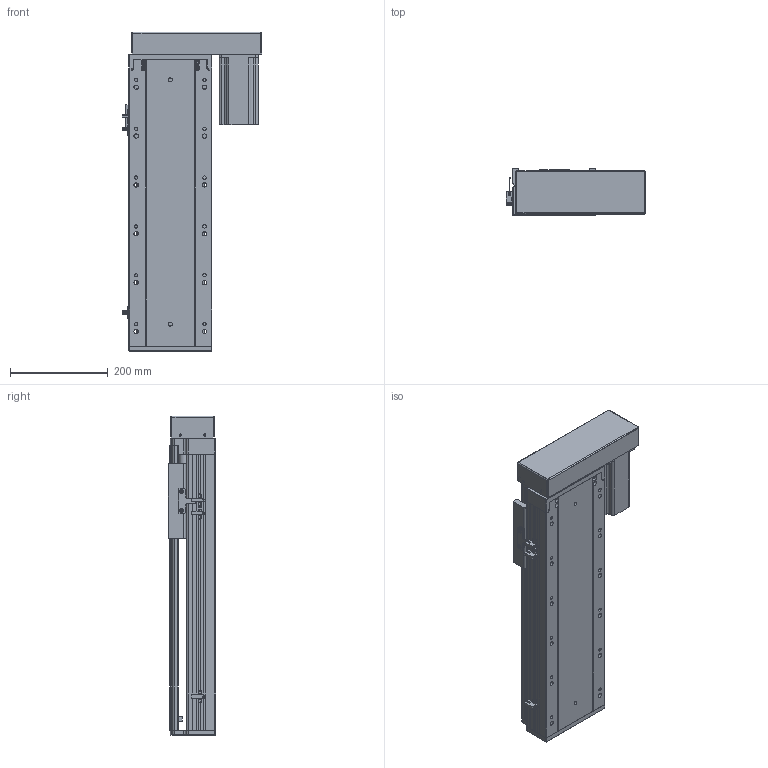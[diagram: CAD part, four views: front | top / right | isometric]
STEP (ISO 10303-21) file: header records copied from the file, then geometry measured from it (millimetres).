
FILE_DESCRIPTION (( 'STEP AP203' ), '1' );
FILE_NAME ('RY170-L2510-300-RK.SLDASM_350.step', '2021-03-12T09:19:00', ( '盈信电脑' ), ( '东莞市道滘镇水果街19号' ), 'SwSTEP 2.0', 'SolidWorks 2012', '' );
FILE_SCHEMA (( 'CONFIG_CONTROL_DESIGN' ));
Length unit declared in the file: millimetre
Products named in the file (14): RY170外置感应片(200共用）; 覜茼ん672; RY170-L2510-300-RK.SLDASM_350; RY170-左右折电机安装板750W; RY170-酘衵殏750W萇儂傷; 怢湛750W萇儂ㄗ80遺ㄘ; RY170酘衵殏萇儂欶750W; RY170綴裔啣; 滅袉蝶18-10; 滅袉蝶18-20; RY170转折电机端支撑座(7004); 改造-RY170铝滑块25丝杆螺母; RY170-300倰第菁釱-RK_350; RY170-300倰第裔啣-RK_350
Assembly tree (15 placements, depth 3):
  RY170-L2510-300-RK.SLDASM_350
    RY170-300倰第菁釱-RK_350
    改造-RY170铝滑块25丝杆螺母
    RY170-300倰第裔啣-RK_350
    RY170綴裔啣
    滅袉蝶18-20
    滅袉蝶18-10
    RY170转折电机端支撑座(7004)
    RY170-酘衵殏750W萇儂傷
      RY170-左右折电机安装板750W
      RY170酘衵殏萇儂欶750W
      怢湛750W萇儂ㄗ80遺ㄘ
    覜茼ん672  x3
    RY170外置感应片(200共用）
Bounding box: 286.2 x 97 x 655 mm (x, y, z)
Volume: 4495134.3 mm3; surface area: 1294363 mm2
Topology: 14 solids, 14 shells, 2075 faces, 5930 edges, 3830 vertices
Faces by surface type: plane 1084, cylinder 830, cone 142, bspline 19
Entity records: 66747 total; most frequent: CARTESIAN_POINT 15766, ORIENTED_EDGE 10668, DIRECTION 9880, EDGE_CURVE 5334, VERTEX_POINT 3510, LINE 3356, VECTOR 3356, AXIS2_PLACEMENT_3D 3262
